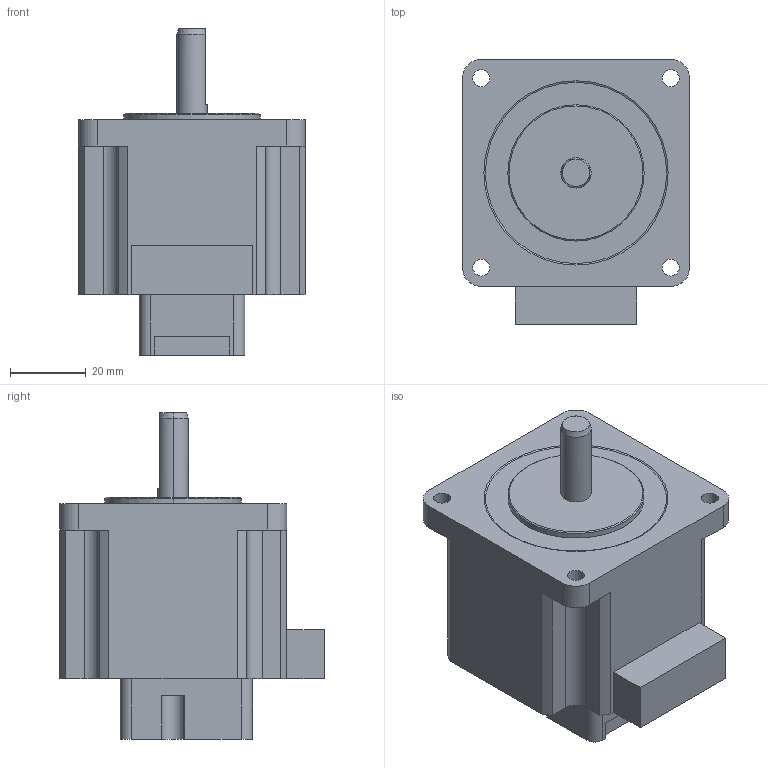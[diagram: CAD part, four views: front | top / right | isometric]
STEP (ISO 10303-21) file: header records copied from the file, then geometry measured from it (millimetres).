
FILE_DESCRIPTION (( 'STEP AP203' ), '1' );
FILE_NAME ('P-PMSA-U60D1HE-NL_3D.STEP', '2020-02-04T01:56:50', ( '' ), ( '' ), 'SwSTEP 2.0', 'SolidWorks 2018', '' );
FILE_SCHEMA (( 'CONFIG_CONTROL_DESIGN' ));
Length unit declared in the file: millimetre
Products named in the file (1): P-PMSA-U60D1HE-NL_3D
Bounding box: 60 x 70 x 86.3 mm (x, y, z)
Volume: 169859.9 mm3; surface area: 21737.5 mm2
Topology: 1 solids, 1 shells, 86 faces, 237 edges, 157 vertices
Faces by surface type: plane 44, cylinder 35, cone 7
Entity records: 2869 total; most frequent: CARTESIAN_POINT 505, DIRECTION 490, ORIENTED_EDGE 474, EDGE_CURVE 237, AXIS2_PLACEMENT_3D 170, VERTEX_POINT 157, LINE 150, VECTOR 150
